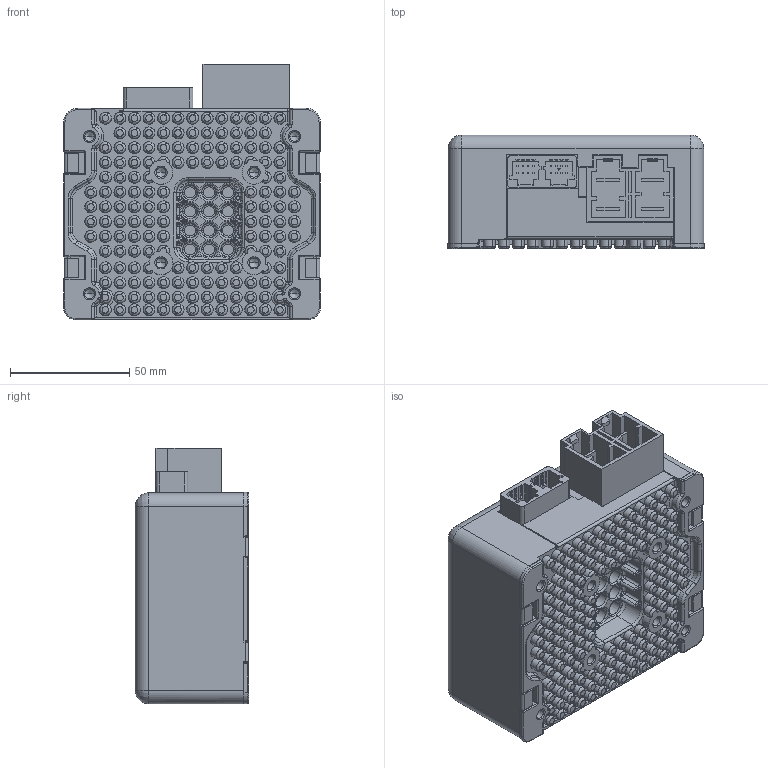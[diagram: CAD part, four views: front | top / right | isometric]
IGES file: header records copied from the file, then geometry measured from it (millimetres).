
Start section: START RECORD GO HERE.
Global section: file name: EA10_ECU.igs; native system: DASSAULT SYSTEMES CATIA Version 5-6 Release 2017 - www.3ds.com; preprocessor: V5-6R2017_5.27.0.0.10-19-2016.20.00; author: kani; organization: ARJ-D3; date: 20211129.222407; units: millimetre
Bounding box: 107.6 x 47.6 x 107.16 mm (x, y, z)
Volume: 418222.1 mm3; surface area: 62897.2 mm2
Topology: 1 solids, 21 shells, 1916 faces, 4456 edges, 3464 vertices
Faces by surface type: revolution 1071, plane 750, bspline 87, extrusion 8
